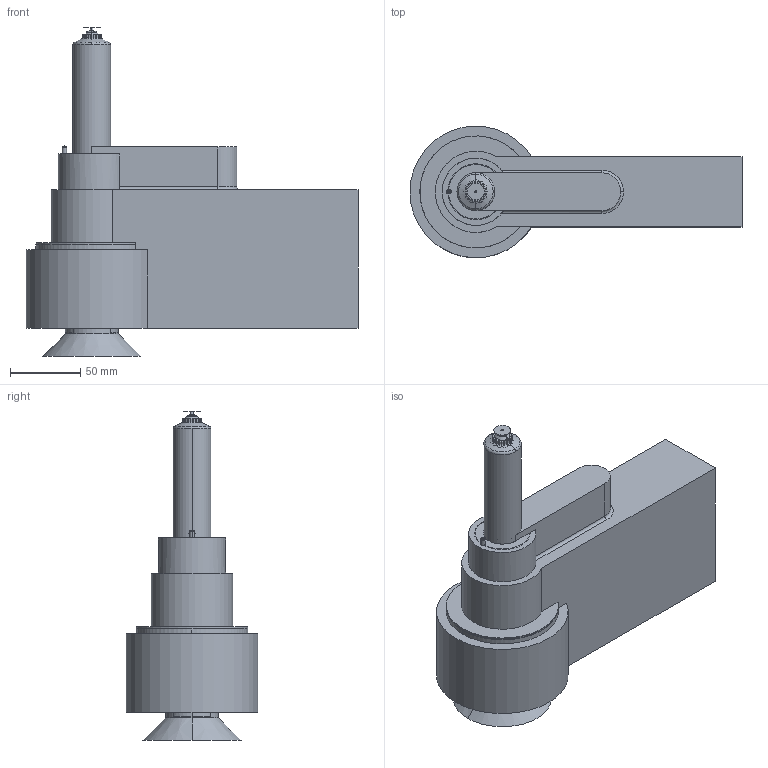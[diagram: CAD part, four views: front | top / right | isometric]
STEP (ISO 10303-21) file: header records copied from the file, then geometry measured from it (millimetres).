
FILE_DESCRIPTION (( 'STEP AP214' ), '1' );
FILE_NAME ('09SVP-03-090-VTW.STEP', '2023-01-05T08:29:08', ( '' ), ( '' ), 'SwSTEP 2.0', 'SolidWorks 2018', '' );
FILE_SCHEMA (( 'AUTOMOTIVE_DESIGN' ));
Length unit declared in the file: millimetre
Products named in the file (9): 09SVP-03-090-VTW; cutout_09SVP-03-090-VTW; DIN914_DIN914-M3x5-45H; DIN912_M05x006; DIN912_M03x014; DIN7984_M05x040; nozzle_09SVP-03-090-VTW; DIN6325_04m6x12; DIN915_M05x10
Assembly tree (16 placements, depth 2):
  09SVP-03-090-VTW
    DIN6325_04m6x12
    DIN7984_M05x040  x4
    DIN912_M03x014  x4
    DIN915_M05x10
    DIN912_M05x006  x2
    DIN914_DIN914-M3x5-45H  x2
    nozzle_09SVP-03-090-VTW
    cutout_09SVP-03-090-VTW
Bounding box: 237 x 93.98 x 234.6 mm (x, y, z)
Volume: 1476484 mm3; surface area: 191304.2 mm2
Topology: 15 solids, 25 shells, 1283 faces, 3221 edges, 2055 vertices
Faces by surface type: plane 566, cylinder 363, cone 183, bspline 84, torus 81, sphere 6
Entity records: 45527 total; most frequent: CARTESIAN_POINT 16778, ORIENTED_EDGE 5816, DIRECTION 5602, EDGE_CURVE 2909, AXIS2_PLACEMENT_3D 2037, VERTEX_POINT 1867, VECTOR 1528, LINE 1528
